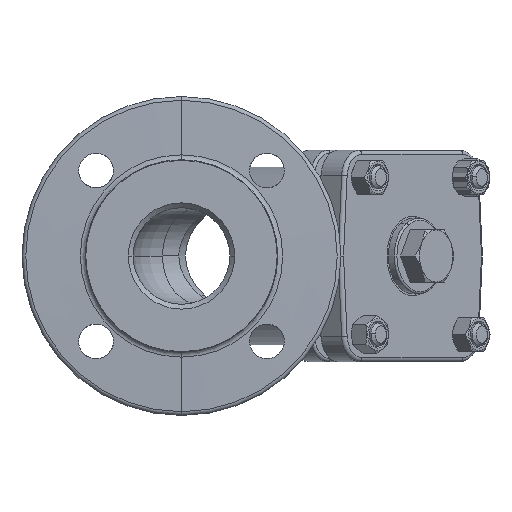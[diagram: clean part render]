
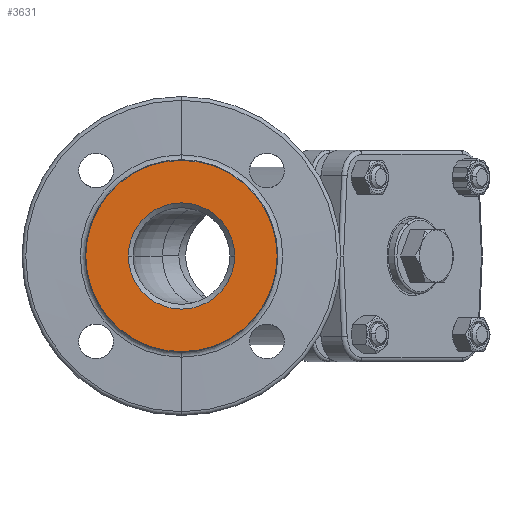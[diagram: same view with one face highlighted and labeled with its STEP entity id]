
A CAD part, left-side view. The second image highlights one B-rep face of the part: STEP entity #3631.
In plain terms, the highlighted planar face has unit normal (-1, 0, 0).
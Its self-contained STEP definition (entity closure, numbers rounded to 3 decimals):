
#3631 = ADVANCED_FACE ( 'NONE', ( #34979, #34962 ), #6629, .T. ) ;
#6629 = PLANE ( 'NONE',  #37588 ) ;
#6632 = CARTESIAN_POINT ( 'NONE',  ( -230., 0., 0. ) ) ;
#6640 = DIRECTION ( 'NONE',  ( -1., 0., 0. ) ) ;
#6641 = DIRECTION ( 'NONE',  ( 0., 0., 1. ) ) ;
#7267 = CIRCLE ( 'NONE', #37711, 27.5 ) ;
#12886 = CARTESIAN_POINT ( 'NONE',  ( -230., 0., -49.5 ) ) ;
#12893 = CARTESIAN_POINT ( 'NONE',  ( -230., 0., 49.5 ) ) ;
#13105 = CARTESIAN_POINT ( 'NONE',  ( -230., 27.5, 0. ) ) ;
#13106 = CARTESIAN_POINT ( 'NONE',  ( -230., -27.5, 0. ) ) ;
#15683 = CARTESIAN_POINT ( 'NONE',  ( -230., 0., 0. ) ) ;
#20412 = EDGE_CURVE ( 'NONE', #42534, #42532, #7267, .T. ) ;
#20475 = DIRECTION ( 'NONE',  ( 1., 0., 0. ) ) ;
#20477 = DIRECTION ( 'NONE',  ( 0., 0., -1. ) ) ;
#20748 = EDGE_CURVE ( 'NONE', #42084, #42091, #40244, .T. ) ;
#20839 = EDGE_CURVE ( 'NONE', #42532, #42534, #40268, .T. ) ;
#20858 = EDGE_CURVE ( 'NONE', #42091, #42084, #40274, .T. ) ;
#21272 = CARTESIAN_POINT ( 'NONE',  ( -230., 0., 0. ) ) ;
#21293 = DIRECTION ( 'NONE',  ( 1., 0., 0. ) ) ;
#21295 = DIRECTION ( 'NONE',  ( 0., 0., 1. ) ) ;
#21369 = CARTESIAN_POINT ( 'NONE',  ( -230., 0., 0. ) ) ;
#21372 = DIRECTION ( 'NONE',  ( 1., 0., 0. ) ) ;
#21373 = DIRECTION ( 'NONE',  ( 0., 0., -1. ) ) ;
#32389 = CARTESIAN_POINT ( 'NONE',  ( -230., 0., 0. ) ) ;
#32390 = DIRECTION ( 'NONE',  ( 1., 0., 0. ) ) ;
#32391 = DIRECTION ( 'NONE',  ( 0., 0., 1. ) ) ;
#34962 = FACE_OUTER_BOUND ( 'NONE', #35204, .T. ) ;
#34979 = FACE_BOUND ( 'NONE', #35208, .T. ) ;
#35204 = EDGE_LOOP ( 'NONE', ( #36261, #36263 ) ) ;
#35208 = EDGE_LOOP ( 'NONE', ( #36256, #36258 ) ) ;
#36256 = ORIENTED_EDGE ( 'NONE', *, *, #20412, .T. ) ;
#36258 = ORIENTED_EDGE ( 'NONE', *, *, #20839, .T. ) ;
#36261 = ORIENTED_EDGE ( 'NONE', *, *, #20748, .F. ) ;
#36263 = ORIENTED_EDGE ( 'NONE', *, *, #20858, .F. ) ;
#37588 = AXIS2_PLACEMENT_3D ( 'NONE', #6632, #6640, #6641 ) ;
#37711 = AXIS2_PLACEMENT_3D ( 'NONE', #32389, #32390, #32391 ) ;
#37788 = AXIS2_PLACEMENT_3D ( 'NONE', #15683, #20475, #20477 ) ;
#37794 = AXIS2_PLACEMENT_3D ( 'NONE', #21272, #21293, #21295 ) ;
#37801 = AXIS2_PLACEMENT_3D ( 'NONE', #21369, #21372, #21373 ) ;
#40244 = CIRCLE ( 'NONE', #37788, 49.5 ) ;
#40268 = CIRCLE ( 'NONE', #37794, 27.5 ) ;
#40274 = CIRCLE ( 'NONE', #37801, 49.5 ) ;
#42084 = VERTEX_POINT ( 'NONE', #12886 ) ;
#42091 = VERTEX_POINT ( 'NONE', #12893 ) ;
#42532 = VERTEX_POINT ( 'NONE', #13105 ) ;
#42534 = VERTEX_POINT ( 'NONE', #13106 ) ;
